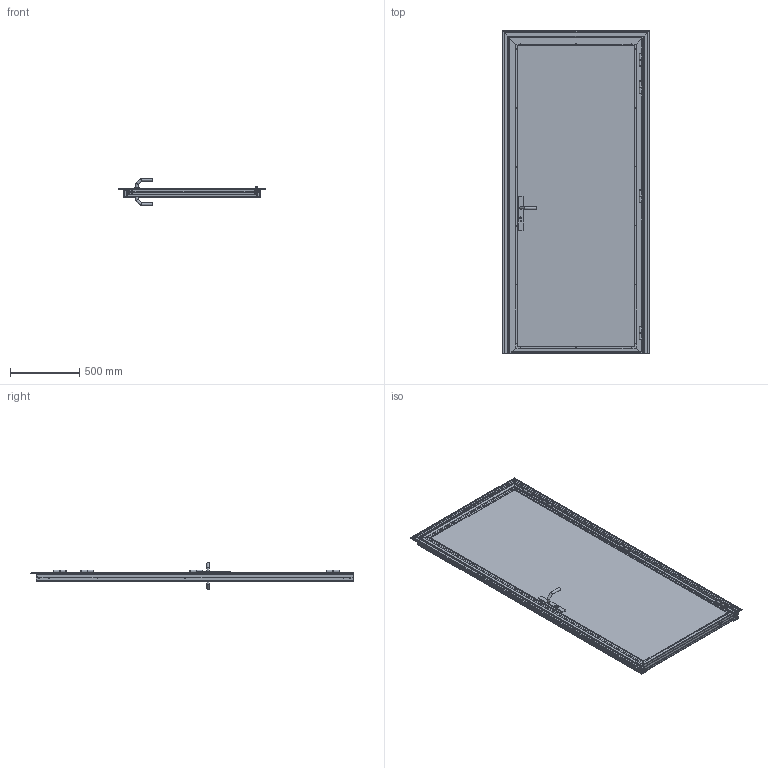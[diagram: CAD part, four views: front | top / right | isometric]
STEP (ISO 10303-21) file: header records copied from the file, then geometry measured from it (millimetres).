
FILE_DESCRIPTION (( 'STEP AP203' ), '1' );
FILE_NAME ('LPDK Rechtsdraaiend Std voorraaddeur 008580 Deur 1 V1.STEP', '2026-02-23T14:16:21', ( '' ), ( '' ), 'SwSTEP 2.0', 'SolidWorks 2025', '' );
FILE_SCHEMA (( 'CONFIG_CONTROL_DESIGN' ));
Length unit declared in the file: millimetre
Products named in the file (22): deurhendel_245; Scharnier 89x89_Rechts; LPDK Rechtsdraaiend Std voorraaddeur 008580 Deur 1 V1; LPDK 40 - Kozijn Staander Rechts 008580 Deur 1 V1_Default<As Machined>; LPDK Kozijn 008580 Deur 1 V1; Scharnier 89x89 Deur_Rechts; smalschild 245; LPDK 40 Omkeerbaarslot_Rechts; LPDK 40 - Kozijn Staander Links 008580 Deur 1 V1_Default<As Machined>; FALK 1170 WZ 40mm 008580 Deur 1 V1_Default<As Machined>; OmkeerbaarSlot; LPDK 40 - Kozijn Boven 008580 Deur 1 V1_Default<As Machined>; Scharnier 89x89 Kozijn_Rechts; LPDK 40 - Transporthoek 008580 Deur 1 V1_Default<As Machined>; LPDK Deur Rechts 008580 Deur 1 V1; LPDK 40 - Deur Boven Rechts 008580 Deur 1 V1_Default<As Machined>; LPDK 40 - Deur Scharnier Rechts 008580 Deur 1 V1_Default<As Machined>; LPDK 40 - Deur Sluit Rechts 008580 Deur 1 V1_Default<As Machined>; LPDK 40 - Deur Onder Rechts 008580 Deur 1 V1_Default<As Machined>
Assembly tree (29 placements, depth 4):
  LPDK Rechtsdraaiend Std voorraaddeur 008580 Deur 1 V1
    LPDK Deur Rechts 008580 Deur 1 V1
      LPDK 40 - Deur Scharnier Rechts 008580 Deur 1 V1_Default<As Machined>
      LPDK 40 - Deur Onder Rechts 008580 Deur 1 V1_Default<As Machined>
      LPDK 40 - Deur Boven Rechts 008580 Deur 1 V1_Default<As Machined>
      LPDK 40 - Deur Sluit Rechts 008580 Deur 1 V1_Default<As Machined>
      FALK 1170 WZ 40mm 008580 Deur 1 V1_Default<As Machined>
      LPDK 40 Omkeerbaarslot_Rechts
        deurhendel_245  x2
        smalschild 245  x2
        OmkeerbaarSlot
    LPDK Kozijn 008580 Deur 1 V1
      LPDK 40 - Kozijn Boven 008580 Deur 1 V1_Default<As Machined>
      LPDK 40 - Kozijn Staander Links 008580 Deur 1 V1_Default<As Machined>
      LPDK 40 - Kozijn Staander Rechts 008580 Deur 1 V1_Default<As Machined>
      LPDK 40 - Transporthoek 008580 Deur 1 V1_Default<As Machined>
    Scharnier 89x89_Rechts
      Scharnier 89x89 Deur_Rechts
      Scharnier 89x89 Kozijn_Rechts
    Scharnier 89x89_Rechts
      Scharnier 89x89 Deur_Rechts
      Scharnier 89x89 Kozijn_Rechts
    Scharnier 89x89_Rechts
      Scharnier 89x89 Deur_Rechts
      Scharnier 89x89 Kozijn_Rechts
    Scharnier 89x89_Rechts
      Scharnier 89x89 Deur_Rechts
      Scharnier 89x89 Kozijn_Rechts
Bounding box: 1066 x 2333 x 197 mm (x, y, z)
Volume: 85311552.6 mm3; surface area: 9095462.5 mm2
Topology: 34 solids, 34 shells, 1268 faces, 3780 edges, 2516 vertices
Faces by surface type: plane 916, cylinder 306, cone 46
Full cylindrical faces by diameter (mm): 2.01 x1, 4.9 x32, 5 x2, 5.2 x44, 5.5 x4, 7 x2, 8 x6, 8.2 x8, 10 x28, 14.5 x4, 15 x4, 16 x12, 19 x4, 20 x8
Entity records: 35281 total; most frequent: CARTESIAN_POINT 7492, ORIENTED_EDGE 5512, DIRECTION 4825, EDGE_CURVE 2756, VERTEX_POINT 1897, VECTOR 1825, LINE 1825, AXIS2_PLACEMENT_3D 1500
